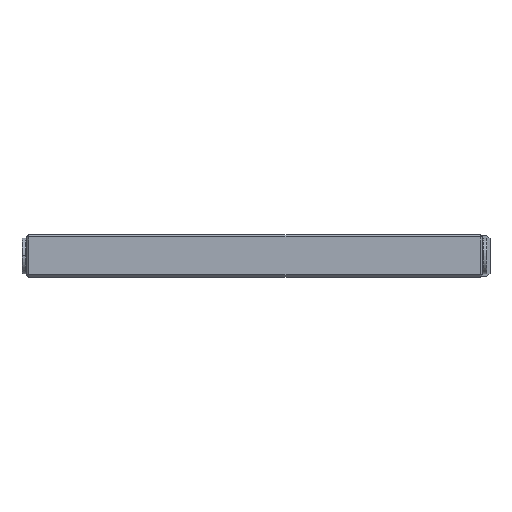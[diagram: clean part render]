
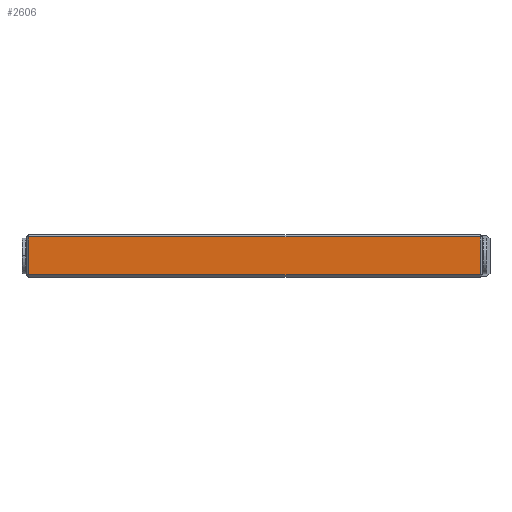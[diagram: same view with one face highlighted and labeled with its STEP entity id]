
A CAD part, top view. The second image highlights one B-rep face of the part: STEP entity #2606.
In plain terms, the highlighted planar face has unit normal (0, 0, 1).
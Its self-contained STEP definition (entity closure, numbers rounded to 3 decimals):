
#2606 = ADVANCED_FACE ( 'NONE', ( #18875 ), #14185, .F. ) ;
#4112 = LINE ( 'NONE', #5553, #4119 ) ;
#4119 = VECTOR ( 'NONE', #5563, 1000. ) ;
#4122 = LINE ( 'NONE', #5569, #4125 ) ;
#4124 = LINE ( 'NONE', #5571, #4127 ) ;
#4125 = VECTOR ( 'NONE', #5570, 1000. ) ;
#4126 = LINE ( 'NONE', #5573, #4129 ) ;
#4127 = VECTOR ( 'NONE', #5572, 1000. ) ;
#4129 = VECTOR ( 'NONE', #5574, 1000. ) ;
#4394 = AXIS2_PLACEMENT_3D ( 'NONE', #14623, #14620, #14618 ) ;
#5553 = CARTESIAN_POINT ( 'NONE',  ( 156.617, 35.05, 44.55 ) ) ;
#5563 = DIRECTION ( 'NONE',  ( 0., 1., 0. ) ) ;
#5569 = CARTESIAN_POINT ( 'NONE',  ( -141.883, 61.55, 44.55 ) ) ;
#5570 = DIRECTION ( 'NONE',  ( -1., 0., 0. ) ) ;
#5571 = CARTESIAN_POINT ( 'NONE',  ( -140.383, 35.05, 44.55 ) ) ;
#5572 = DIRECTION ( 'NONE',  ( 0., -1., 0. ) ) ;
#5573 = CARTESIAN_POINT ( 'NONE',  ( 158.117, 36.55, 44.55 ) ) ;
#5574 = DIRECTION ( 'NONE',  ( 1., 0., 0. ) ) ;
#10148 = VERTEX_POINT ( 'NONE', #12765 ) ;
#10150 = VERTEX_POINT ( 'NONE', #12767 ) ;
#10151 = VERTEX_POINT ( 'NONE', #12768 ) ;
#10152 = VERTEX_POINT ( 'NONE', #12769 ) ;
#11288 = ORIENTED_EDGE ( 'NONE', *, *, #19351, .T. ) ;
#11295 = ORIENTED_EDGE ( 'NONE', *, *, #19350, .T. ) ;
#11451 = ORIENTED_EDGE ( 'NONE', *, *, #19352, .T. ) ;
#11458 = ORIENTED_EDGE ( 'NONE', *, *, #19347, .T. ) ;
#12765 = CARTESIAN_POINT ( 'NONE',  ( 156.617, 36.55, 44.55 ) ) ;
#12767 = CARTESIAN_POINT ( 'NONE',  ( -140.383, 36.55, 44.55 ) ) ;
#12768 = CARTESIAN_POINT ( 'NONE',  ( -140.383, 61.55, 44.55 ) ) ;
#12769 = CARTESIAN_POINT ( 'NONE',  ( 156.617, 61.55, 44.55 ) ) ;
#14185 = PLANE ( 'NONE',  #4394 ) ;
#14618 = DIRECTION ( 'NONE',  ( 1., 0., 0. ) ) ;
#14620 = DIRECTION ( 'NONE',  ( 0., 0., -1. ) ) ;
#14623 = CARTESIAN_POINT ( 'NONE',  ( -141.883, 35.05, 44.55 ) ) ;
#16259 = EDGE_LOOP ( 'NONE', ( #11295, #11288, #11451, #11458 ) ) ;
#18875 = FACE_OUTER_BOUND ( 'NONE', #16259, .T. ) ;
#19347 = EDGE_CURVE ( 'NONE', #10148, #10152, #4112, .T. ) ;
#19350 = EDGE_CURVE ( 'NONE', #10152, #10151, #4122, .T. ) ;
#19351 = EDGE_CURVE ( 'NONE', #10151, #10150, #4124, .T. ) ;
#19352 = EDGE_CURVE ( 'NONE', #10150, #10148, #4126, .T. ) ;
